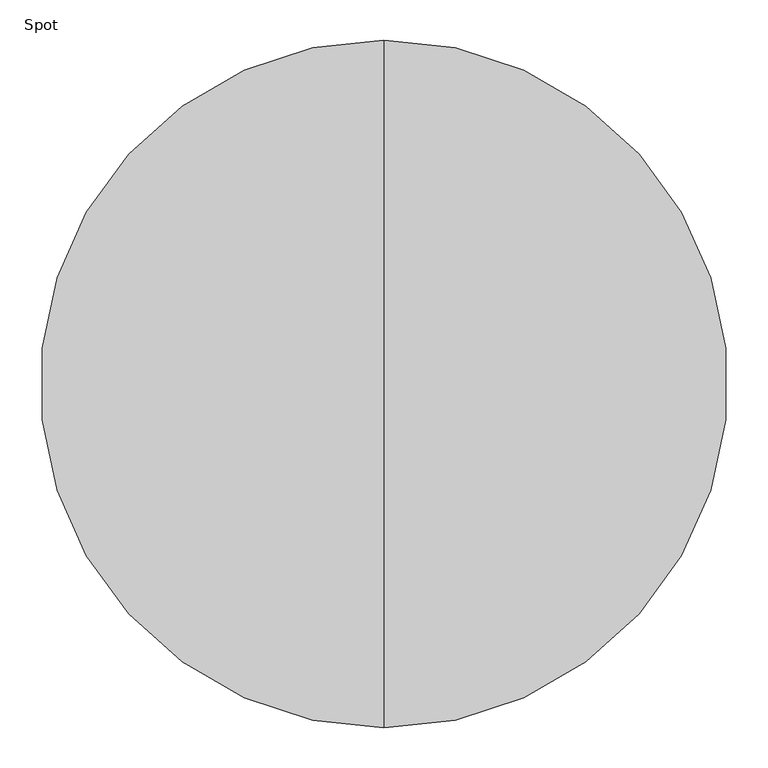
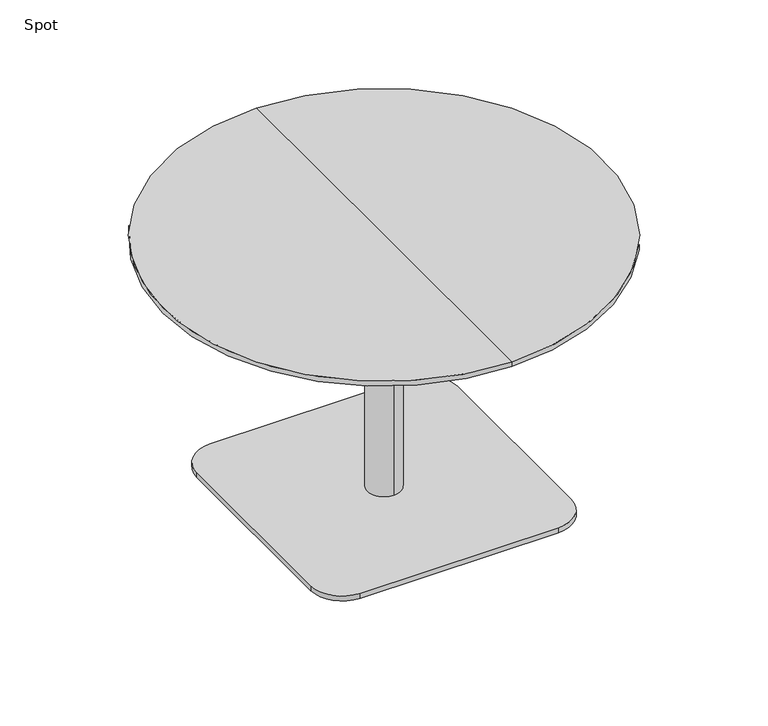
"""IFC4 building model written with IfcOpenShell, lengths in millimetres: furniture geometry, Spot : ø85x52s."""

from ifc_helpers import new_model, si_unit, point, frame, frame_2d, origin, origin_with_axes, place, context, project, spatial, polyline, circle_curve, trimmed, segment, composite_curve, outline, extrude, source, transform, mapped, element, save
from ifc_brep_helpers import plane_surface, cylinder_surface, revolved_surface, advanced_brep


def spot_6ba45eee(model_context):
    return source(origin(), model_context, "Body", "SolidModel", [
        advanced_brep(
        [(0.0, 425.0, 520.0), (0.0, -425.0, 520.0), (0.0, 0.0, 520.0), (0.0, 425.0, 510.25), (0.0, -425.0, 510.25), (0.0, 379.2823776, 498.0), (0.0, -379.2823776, 498.0), (0.0, 0.0, 498.0)],
        [
            (0, 1, circle_curve(frame((0.0, 0.0, 520.0), z_axis=(0.0, 0.0, 1.0), x_axis=(0.0, -1.0, 0.0)), 425.0)),
            (1, 2),
            (2, 0),
            (1, 0, circle_curve(frame((0.0, 0.0, 520.0), z_axis=(0.0, 0.0, 1.0), x_axis=(0.0, -1.0, 0.0)), 425.0)),
            (3, 4, circle_curve(frame((0.0, 0.0, 510.25), z_axis=(0.0, 0.0, 1.0), x_axis=(0.0, -1.0, 0.0)), 425.0)),
            (4, 1),
            (0, 3),
            (4, 3, circle_curve(frame((0.0, 0.0, 510.25), z_axis=(0.0, 0.0, 1.0), x_axis=(0.0, -1.0, 0.0)), 425.0)),
            (5, 6, circle_curve(frame((0.0, 0.0, 498.0), z_axis=(0.0, 0.0, 1.0), x_axis=(0.0, -1.0, 0.0)), 379.2823776)),
            (6, 4),
            (3, 5),
            (6, 5, circle_curve(frame((0.0, 0.0, 498.0), z_axis=(0.0, 0.0, 1.0), x_axis=(0.0, -1.0, 0.0)), 379.2823776)),
            (7, 6),
            (5, 7),
        ],
        [
            plane_surface(frame((0.0, 0.0, 520.0), z_axis=(0.0, 0.0, 1.0), x_axis=(0.0, -1.0, 0.0))),
            cylinder_surface(frame((0.0, 0.0, 600.0), z_axis=(0.0, 0.0, -1.0), x_axis=(0.0, -1.0, 0.0)), 425.0),
            revolved_surface(polyline([(0.0, -425.0, 510.25), (0.0, -379.2823776, 498.0)]), (0.0, 0.0, 600.0), (0.0, 0.0, -1.0)),
            plane_surface(frame((0.0, 0.0, 498.0), z_axis=(0.0, 0.0, -1.0), x_axis=(0.0, -1.0, 0.0))),
        ],
        [
            (0, [[1, 2, 3]]),
            (0, [[4, -3, -2]]),
            (1, [[5, 6, -1, 7]]),
            (1, [[8, -7, -4, -6]]),
            (2, [[9, 10, -5, 11]]),
            (2, [[12, -11, -8, -10]]),
            (3, [[13, -9, 14]]),
            (3, [[-14, -12, -13]]),
        ],
    ),
        extrude(outline(composite_curve([segment(trimmed(circle_curve(frame_2d((190.0, 190.0)), 60.0), [point((190.0, 250.0))], [point((250.0, 190.0))], False, "CARTESIAN"), True, "CONTINUOUS"), segment(polyline([(250.0, 190.0), (250.0, -190.0)]), True, "CONTINUOUS"), segment(trimmed(circle_curve(frame_2d((190.0, -190.0)), 60.0), [point((250.0, -190.0))], [point((190.0, -250.0))], False, "CARTESIAN"), True, "CONTINUOUS"), segment(polyline([(190.0, -250.0), (-190.0, -250.0)]), True, "CONTINUOUS"), segment(trimmed(circle_curve(frame_2d((-190.0, -190.0)), 60.0), [point((-190.0, -250.0))], [point((-250.0, -190.0))], False, "CARTESIAN"), True, "CONTINUOUS"), segment(polyline([(-250.0, -190.0), (-250.0, 190.0)]), True, "CONTINUOUS"), segment(trimmed(circle_curve(frame_2d((-190.0, 190.0)), 60.0), [point((-250.0, 190.0))], [point((-190.0, 250.0))], False, "CARTESIAN"), True, "CONTINUOUS"), segment(polyline([(-190.0, 250.0), (190.0, 250.0)]), True, "CONTINUOUS")], self_intersect=False)), origin_with_axes(), (0.0, 0.0, 1.0), 10.0),
        advanced_brep(
        [(0.0, 32.0, 10.0), (0.0, -32.0, 10.0), (0.0, -32.0, 467.406916), (0.0, 32.0, 467.406916), (0.0, 0.0, 10.0), (0.0, 150.0, 498.0), (0.0, -150.0, 498.0), (0.0, 0.0, 498.0), (0.0, 150.0, 486.7213673), (0.0, -150.0, 486.7213673)],
        [
            (0, 1, circle_curve(frame((0.0, 0.0, 10.0), z_axis=(0.0, 0.0, 1.0), x_axis=(0.0, -1.0, 0.0)), 32.0)),
            (1, 2),
            (2, 3, circle_curve(frame((0.0, 0.0, 467.406916), z_axis=(0.0, 0.0, -1.0), x_axis=(0.0, -1.0, 0.0)), 32.0)),
            (3, 0),
            (1, 0, circle_curve(frame((0.0, 0.0, 10.0), z_axis=(0.0, 0.0, 1.0), x_axis=(0.0, -1.0, 0.0)), 32.0)),
            (3, 2, circle_curve(frame((0.0, 0.0, 467.406916), z_axis=(0.0, 0.0, -1.0), x_axis=(0.0, -1.0, 0.0)), 32.0)),
            (4, 1),
            (0, 4),
            (5, 6, circle_curve(frame((0.0, 0.0, 498.0), z_axis=(0.0, 0.0, 1.0), x_axis=(0.0, -1.0, 0.0)), 150.0)),
            (6, 7),
            (7, 5),
            (6, 5, circle_curve(frame((0.0, 0.0, 498.0), z_axis=(0.0, 0.0, 1.0), x_axis=(0.0, -1.0, 0.0)), 150.0)),
            (8, 9, circle_curve(frame((0.0, 0.0, 486.7213673), z_axis=(0.0, 0.0, 1.0), x_axis=(0.0, -1.0, 0.0)), 150.0)),
            (9, 6),
            (5, 8),
            (9, 8, circle_curve(frame((0.0, 0.0, 486.7213673), z_axis=(0.0, 0.0, 1.0), x_axis=(0.0, -1.0, 0.0)), 150.0)),
            (2, 9),
            (8, 3),
        ],
        [
            cylinder_surface(frame((0.0, 0.0, 860.0), z_axis=(0.0, 0.0, -1.0), x_axis=(0.0, -1.0, 0.0)), 32.0),
            plane_surface(frame((0.0, 0.0, 10.0), z_axis=(0.0, 0.0, -1.0), x_axis=(0.0, -1.0, 0.0))),
            plane_surface(frame((0.0, 0.0, 498.0), z_axis=(0.0, 0.0, 1.0), x_axis=(0.0, -1.0, 0.0))),
            cylinder_surface(frame((0.0, 0.0, 860.0), z_axis=(0.0, 0.0, -1.0), x_axis=(0.0, -1.0, 0.0)), 150.0),
            revolved_surface(polyline([(0.0, -150.0, 486.7213673), (0.0, -32.0, 467.406916)]), (0.0, 0.0, 860.0), (0.0, 0.0, -1.0)),
        ],
        [
            (0, [[1, 2, 3, 4]]),
            (0, [[5, -4, 6, -2]]),
            (1, [[7, -1, 8]]),
            (1, [[-8, -5, -7]]),
            (2, [[9, 10, 11]]),
            (2, [[12, -11, -10]]),
            (3, [[13, 14, -9, 15]]),
            (3, [[16, -15, -12, -14]]),
            (4, [[-3, 17, -13, 18]]),
            (4, [[-6, -18, -16, -17]]),
        ],
    ),
        extrude(outline(polyline([(0.0, 0.0), (-20.0, 0.0), (-20.0, 20.0), (0.0, 20.0), (0.0, 0.0)])), origin_with_axes(), (0.0, 0.0, 1.0), 10.0),
    ])


if __name__ == "__main__":
    model = new_model("IFC4")
    model_context = context("Model", 3, world=origin())
    ifc_project = project(units=[si_unit("LENGTHUNIT", "METRE", prefix="MILLI")], contexts=[model_context])
    site = spatial("IfcSite", under=ifc_project)
    building = spatial("IfcBuilding", under=site)
    placement = place(None, origin())
    spot_shape = spot_6ba45eee(model_context)
    element("IfcFurniture", 1, ObjectType="Spot : ø85x52s", at=placement, inside=building, context=model_context, shape_type="MappedRepresentation", body=[
        mapped(spot_shape, transform((0.0, 0.0, 0.0), x_axis=(1.0, 0.0, 0.0), y_axis=(0.0, 1.0, 0.0), z_axis=(0.0, 0.0, 1.0))),
    ])
    save(model, "model.ifc")
